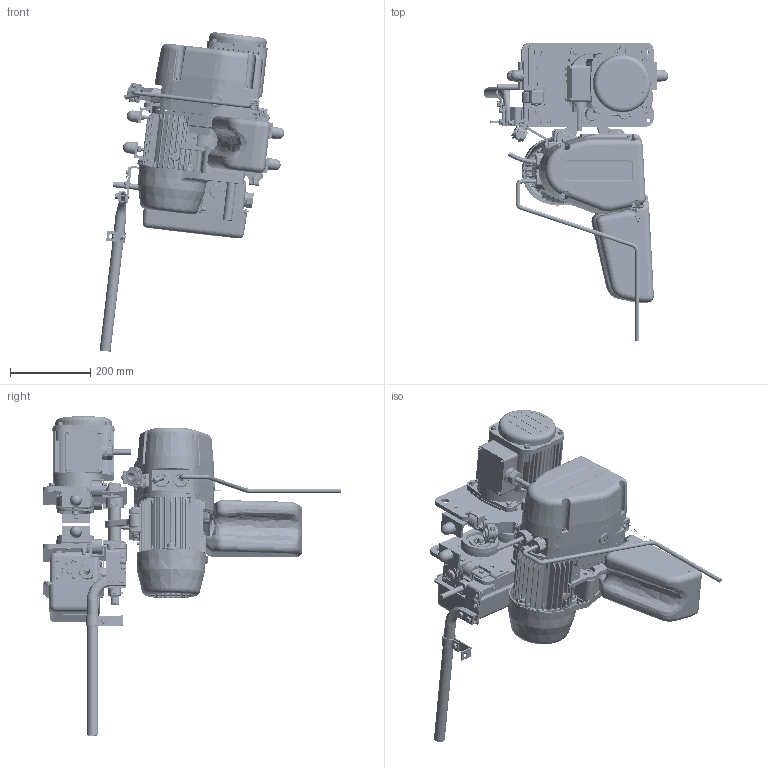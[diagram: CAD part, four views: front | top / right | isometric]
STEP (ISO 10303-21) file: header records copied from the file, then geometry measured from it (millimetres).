
FILE_DESCRIPTION (( 'STEP AP214' ), '1' );
FILE_NAME ('EQM001 AP214.STEP', '2019-04-15T17:57:59', ( 'harrington' ), ( 'Microsoft' ), 'SwSTEP 2.0', 'SolidWorks 2018', '' );
FILE_SCHEMA (( 'AUTOMOTIVE_DESIGN' ));
Length unit declared in the file: millimetre
Products named in the file (117): 9091227_c; MR1DS9401_1 - 8 TON & 10 L TON; MSF115010_MSF115010; E6F630010S; ECP6912AA1-1-X_______; MR1DS9131_MR1DS9131; J1WH012-10050_J1WH012-10050; MR1DS9411; MR1DS5202; MR2DS1759_for (N)ERM; ECP5924AD1-0-X_______; MS1102010; E4YS005-28223-0-HSM_______; MR1DS9248; M6FE010S9114; ECP6912AA; ECP5924AA1-0-X_______; M6SE010S9102; J1PW01-016010_M1.6X10 SPLIT PIN; 9093328_9093328; MR1DS9202; MR2DS1768_for (N)ERM; ECP5924AQ1_______; 9093329_9093329; J1AA4-5002020_J1AA4-5002020; 9012513; MR1DS5201; ECP6916AA; ECP5924AB1-0-X_______; MS1101010; N6TA100E91251-0_______; 6077801; M6FE010S9113; 60704; body500kg-2012-0903_____________; basic internal retaining ring_am_PreviewCfg; MR2005L_4" FLANGE; 9012708_9012708; MS554010; MR1DS9203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
Assembly tree (247 placements, depth 6):
  EQM001 AP214
    EQ500kg_SUSP. EYE MOUNTED
      body500kg-2012-0903_____________
      CableHolder-X_______  x2
        ECP5924AB1-0-X_______
        ECP5924AQ1_______
        ECP5924AA1-0-X_______
        ECP5924AD1-0-X_______
        ECP6912AA1-1-X_______
      EQ1CI9110_____________
      Pwer suply cable(ECH)-X_______
      Push bottan_______
        code (ECH)-X__500_______
        stop(ECH)-X__500_______
      EQ1CI9107_______
      EQ1CI2104_______
      chain backet2011018_______
        EQ1CI9401_______
      ER1BS95412_______
      E4YS005-28223-0-HSM_______
        E4YS005-98222-0-HSM_______
        E3ES002-95412-2-HSM_______
        9012708_9012708  x2
        N6TA100E91251-0_______
        J1AA4-5002020_J1AA4-5002020  x2
        J1PW01-016010_M1.6X10 SPLIT PIN
      J1WH012-10050_J1WH012-10050  x8
      9091227_c  x8
      E2YS005-9116
      ER1BS9135
      E2YS005-9109
      E5FE003S9111
      EQ1CI9121  x2
      J1BE1-0809028_B18.3.1M - 8 x 1.25 x 90 Hex SHCS -- 28CHX
      C2BA100-90741_ISO 7040-M8-N
      J1BG10601010_M6X10X10  x2
      EQ1CI9001
      J1AP26001616_B18.6.7M - M6 x 1.0 x 16 Type I Cross Recessed PHMS --16N  x2
    MR2005L_4" FLANGE
      MR1DS5201
        MR1DS9201
        MR1DS9203  x2
        M6FE010S9113
      MR1DS5202
        MR1DS9202
        MR1DS9203  x2
        M6FE010S9114
      MSF115010_MSF115010
      MR1DS9634  x4
      9093330_9093330  x3
      9012711_9012711  x16
      9093424_9093424  x12
      MR1DS9631  x4
      MS006010  x4
      MR1DS1211_Reversed  x2
        MR1DS1211
        MR1DS9218
      MR1DS1211  x2
        MR1DS1211
        MR1DS9218
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Bounding box: 461.37 x 746.98 x 798.67 mm (x, y, z)
Volume: 9177912.3 mm3; surface area: 3319917.9 mm2
Topology: 274 solids, 274 shells, 14091 faces, 36819 edges, 23120 vertices
Faces by surface type: plane 4370, cylinder 4327, cone 2193, bspline 1579, torus 1136, sphere 486
Entity records: 387556 total; most frequent: CARTESIAN_POINT 161379, ORIENTED_EDGE 48018, DIRECTION 44532, EDGE_CURVE 24009, AXIS2_PLACEMENT_3D 17310, VERTEX_POINT 15179, EDGE_LOOP 10142, VECTOR 9912
